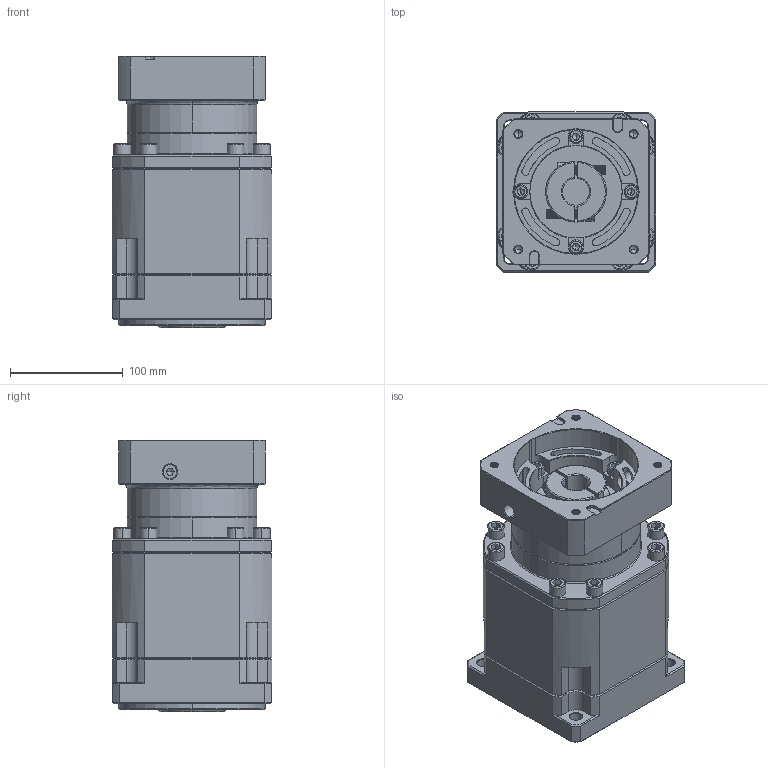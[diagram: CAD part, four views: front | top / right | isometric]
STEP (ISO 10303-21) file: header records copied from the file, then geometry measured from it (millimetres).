
FILE_DESCRIPTION (( 'STEP AP214' ), '1' );
FILE_NAME ('ZB142A-K35-L3-P2-24-110-145-M8.step', '2023-09-02T02:56:16', ( '' ), ( '' ), 'SwSTEP 2.0', 'SolidWorks 2016', '' );
FILE_SCHEMA (( 'AUTOMOTIVE_DESIGN' ));
Length unit declared in the file: millimetre
Products named in the file (1): ZB142A-K35-L3-P2-24-110-145-M8
Bounding box: 142 x 142 x 241.2 mm (x, y, z)
Volume: 3544314.7 mm3; surface area: 269608.6 mm2
Topology: 6 solids, 6 shells, 2541 faces, 6677 edges, 4255 vertices
Faces by surface type: plane 1224, cylinder 480, bspline 400, cone 381, torus 56
Entity records: 132495 total; most frequent: CARTESIAN_POINT 44997, ORIENTED_EDGE 13250, DIRECTION 10901, EDGE_CURVE 6625, VERTEX_POINT 4255, LINE 4227, VECTOR 4227, AXIS2_PLACEMENT_3D 3337
